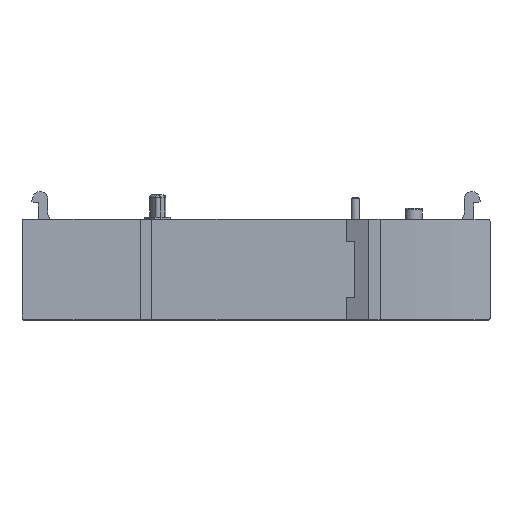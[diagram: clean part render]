
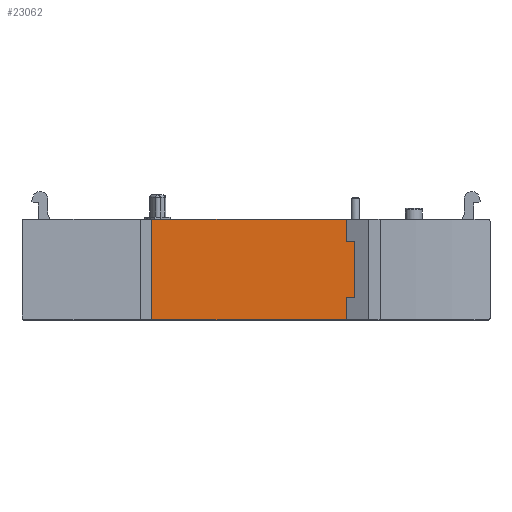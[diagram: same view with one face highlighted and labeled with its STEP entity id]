
A CAD part, top view. The second image highlights one B-rep face of the part: STEP entity #23062.
In plain terms, the highlighted planar face has unit normal (0, 0, 1).
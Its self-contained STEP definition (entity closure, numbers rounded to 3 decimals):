
#561=DIRECTION('',(1.,0.,0.));
#562=VECTOR('',#561,36.);
#563=CARTESIAN_POINT('',(-18.5,17.8,44.));
#564=LINE('',#563,#562);
#565=DIRECTION('',(0.,-1.,0.));
#566=VECTOR('',#565,17.8);
#567=CARTESIAN_POINT('',(17.5,17.8,44.));
#568=LINE('',#567,#566);
#569=DIRECTION('',(-1.,0.,0.));
#570=VECTOR('',#569,36.);
#571=CARTESIAN_POINT('',(17.5,0.,44.));
#572=LINE('',#571,#570);
#15346=DIRECTION('',(0.,-1.,0.));
#15347=VECTOR('',#15346,17.8);
#15348=CARTESIAN_POINT('',(-18.5,17.8,44.));
#15349=LINE('',#15348,#15347);
#17741=CARTESIAN_POINT('',(-18.5,0.,44.));
#17742=VERTEX_POINT('',#17741);
#17743=CARTESIAN_POINT('',(17.5,0.,44.));
#17744=VERTEX_POINT('',#17743);
#17787=CARTESIAN_POINT('',(17.5,17.8,44.));
#17788=VERTEX_POINT('',#17787);
#17795=CARTESIAN_POINT('',(-18.5,17.8,44.));
#17796=VERTEX_POINT('',#17795);
#23049=CARTESIAN_POINT('',(-17.5,0.,44.));
#23050=DIRECTION('',(0.,0.,1.));
#23051=DIRECTION('',(1.,0.,0.));
#23052=AXIS2_PLACEMENT_3D('',#23049,#23050,#23051);
#23053=PLANE('',#23052);
#23055=ORIENTED_EDGE('',*,*,#23054,.T.);
#23056=ORIENTED_EDGE('',*,*,#23010,.T.);
#23057=ORIENTED_EDGE('',*,*,#22901,.T.);
#23059=ORIENTED_EDGE('',*,*,#23058,.F.);
#23060=EDGE_LOOP('',(#23055,#23056,#23057,#23059));
#23061=FACE_OUTER_BOUND('',#23060,.F.);
#23062=ADVANCED_FACE('',(#23061),#23053,.T.);
#22901=EDGE_CURVE('',#17744,#17742,#572,.T.);
#23010=EDGE_CURVE('',#17788,#17744,#568,.T.);
#23054=EDGE_CURVE('',#17796,#17788,#564,.T.);
#23058=EDGE_CURVE('',#17796,#17742,#15349,.T.);
